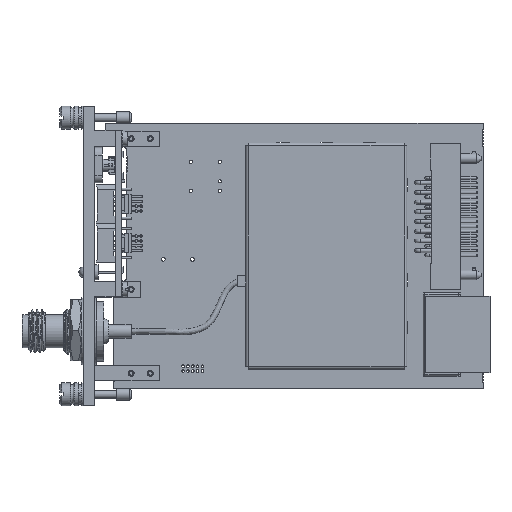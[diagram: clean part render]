
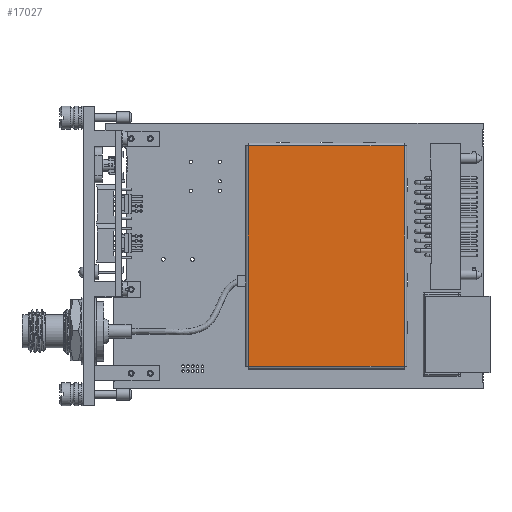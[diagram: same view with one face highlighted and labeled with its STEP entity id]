
A CAD part, top view. The second image highlights one B-rep face of the part: STEP entity #17027.
In plain terms, the highlighted planar face has unit normal (0, 0, 1).
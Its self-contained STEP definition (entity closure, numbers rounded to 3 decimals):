
#17027=ADVANCED_FACE('',(#70193),#70195,.F.);
#70193=FACE_BOUND('',#70194,.T.);
#70194=EDGE_LOOP('',(#125641,#125642,#125643,#125644));
#70195=PLANE('',#70196);
#70196=AXIS2_PLACEMENT_3D('',#70197,#70198,#70199);
#70197=CARTESIAN_POINT('',(78.3,63.62,13.7));
#70198=DIRECTION('',(0.,0.,-1.));
#70199=DIRECTION('',(0.,-1.,0.));
#125641=ORIENTED_EDGE('',*,*,#152477,.T.);
#125642=ORIENTED_EDGE('',*,*,#152496,.T.);
#125643=ORIENTED_EDGE('',*,*,#152428,.T.);
#125644=ORIENTED_EDGE('',*,*,#152459,.T.);
#152428=EDGE_CURVE('',#172865,#172863,#172866,.T.);
#152459=EDGE_CURVE('',#172863,#172898,#172901,.T.);
#152477=EDGE_CURVE('',#172898,#172918,#172920,.T.);
#152496=EDGE_CURVE('',#172918,#172865,#172940,.T.);
#172863=VERTEX_POINT('',#211435);
#172865=VERTEX_POINT('',#211440);
#172866=LINE('',#211441,#211442);
#172898=VERTEX_POINT('',#211537);
#172901=LINE('',#211545,#211546);
#172918=VERTEX_POINT('',#211596);
#172920=LINE('',#211601,#211602);
#172940=LINE('',#211663,#211664);
#211435=CARTESIAN_POINT('',(37.5,5.82,13.7));
#211440=CARTESIAN_POINT('',(37.5,63.62,13.7));
#211441=CARTESIAN_POINT('',(37.5,63.62,13.7));
#211442=VECTOR('',#211443,1.);
#211443=DIRECTION('',(0.,-1.,0.));
#211537=CARTESIAN_POINT('',(78.3,5.82,13.7));
#211545=CARTESIAN_POINT('',(37.5,5.82,13.7));
#211546=VECTOR('',#211547,1.);
#211547=DIRECTION('',(1.,0.,0.));
#211596=CARTESIAN_POINT('',(78.3,63.62,13.7));
#211601=CARTESIAN_POINT('',(78.3,5.82,13.7));
#211602=VECTOR('',#211603,1.);
#211603=DIRECTION('',(0.,1.,0.));
#211663=CARTESIAN_POINT('',(78.3,63.62,13.7));
#211664=VECTOR('',#211665,1.);
#211665=DIRECTION('',(-1.,0.,0.));
